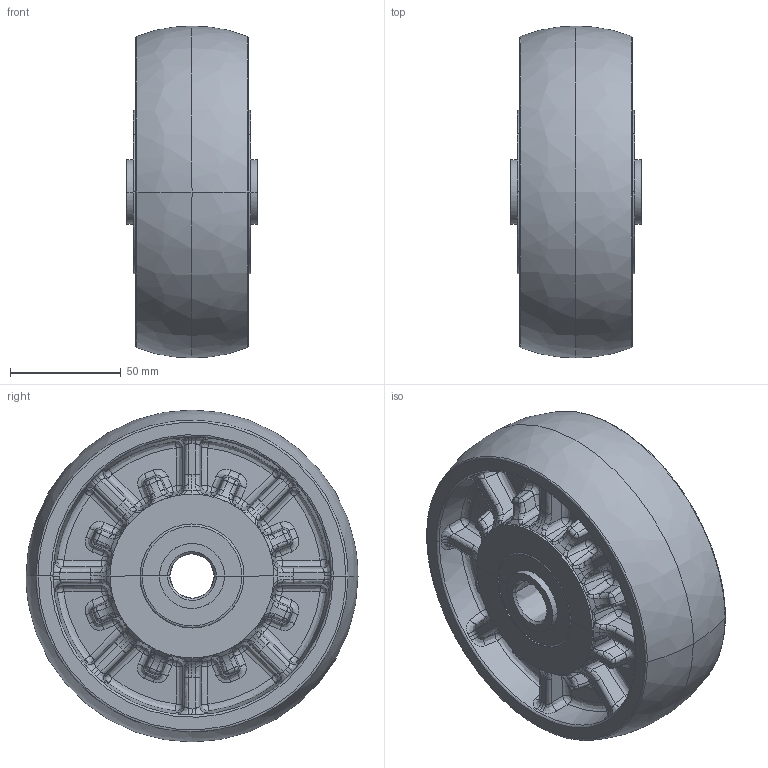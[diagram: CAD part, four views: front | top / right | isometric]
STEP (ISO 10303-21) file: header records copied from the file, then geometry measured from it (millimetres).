
FILE_DESCRIPTION (( 'STEP AP214' ), '1' );
FILE_NAME ('HE-150W-ALL.STEP', '2021-05-28T00:11:01', ( '' ), ( '' ), 'SwSTEP 2.0', 'SolidWorks 2010', '' );
FILE_SCHEMA (( 'AUTOMOTIVE_DESIGN' ));
Length unit declared in the file: millimetre
Products named in the file (3): HE-150W-20; HE-150W-21; HE-150W-ALL
Assembly tree (2 placements, depth 2):
  HE-150W-ALL
    HE-150W-20
    HE-150W-21
Bounding box: 59 x 150 x 150 mm (x, y, z)
Volume: 657982.6 mm3; surface area: 92337.7 mm2
Topology: 3 solids, 3 shells, 1160 faces, 2828 edges, 1556 vertices
Faces by surface type: bspline 1144, plane 16
Entity records: 111431 total; most frequent: CARTESIAN_POINT 89169, ORIENTED_EDGE 5432, EDGE_CURVE 2716, B_SPLINE_CURVE_WITH_KNOTS 2668, VERTEX_POINT 1556, EDGE_LOOP 1160, ADVANCED_FACE 1160, FACE_OUTER_BOUND 1160
